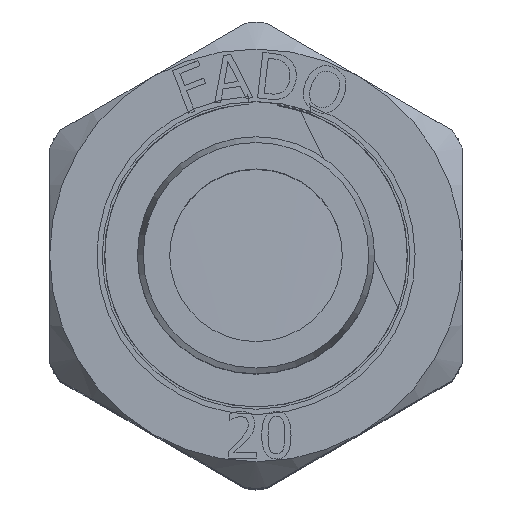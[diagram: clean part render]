
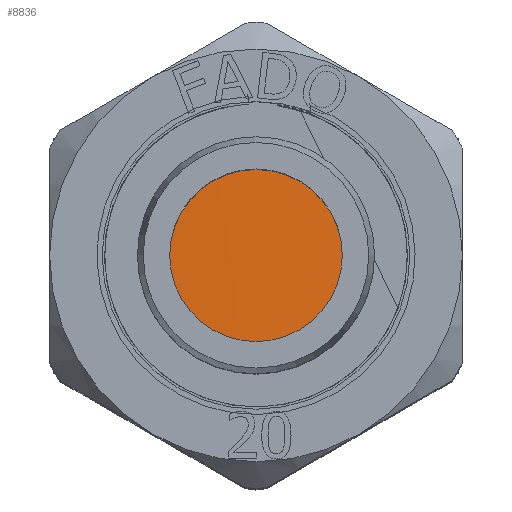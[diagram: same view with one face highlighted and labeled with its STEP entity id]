
A CAD part, top view. The second image highlights one B-rep face of the part: STEP entity #8836.
In plain terms, the highlighted cylindrical face has radius 12.5 mm (diameter 25 mm), a full revolution.
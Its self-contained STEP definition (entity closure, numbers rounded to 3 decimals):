
#330=B_SPLINE_CURVE_WITH_KNOTS('',3,(#11808,#11809,#11810,#11811,#11812,
#11813,#11814,#11815,#11816,#11817,#11818,#11819,#11820,#11821,#11822,#11823,
#11824),.UNSPECIFIED.,.F.,.F.,(4,1,1,1,1,1,1,1,1,1,1,1,1,1,4),(43.982,
44.114,44.61,45.106,45.603,46.099,
46.595,47.091,47.587,48.084,48.58,
49.076,49.572,50.069,50.265),
 .UNSPECIFIED.);
#1011=CYLINDRICAL_SURFACE('',#9478,12.5);
#1256=FACE_OUTER_BOUND('',#1779,.T.);
#1779=EDGE_LOOP('',(#6099,#6100,#6101));
#2587=LINE('',#11698,#3094);
#2589=LINE('',#11807,#3096);
#3094=VECTOR('',#10089,12.5);
#3096=VECTOR('',#10097,12.5);
#3665=VERTEX_POINT('',#11696);
#3666=VERTEX_POINT('',#11697);
#3670=VERTEX_POINT('',#11806);
#4627=EDGE_CURVE('',#3665,#3666,#2587,.T.);
#4633=EDGE_CURVE('',#3670,#3666,#2589,.T.);
#4634=EDGE_CURVE('',#3670,#3665,#330,.T.);
#6099=ORIENTED_EDGE('',*,*,#4627,.T.);
#6100=ORIENTED_EDGE('',*,*,#4633,.F.);
#6101=ORIENTED_EDGE('',*,*,#4634,.T.);
#8836=ADVANCED_FACE('',(#1256),#1011,.T.);
#9478=AXIS2_PLACEMENT_3D('',#11805,#10095,#10096);
#10089=DIRECTION('',(0.,0.,1.));
#10095=DIRECTION('center_axis',(0.,0.,1.));
#10096=DIRECTION('ref_axis',(0.,1.,0.));
#10097=DIRECTION('',(0.,0.,-1.));
#11696=CARTESIAN_POINT('',(0.,-12.5,5.775));
#11697=CARTESIAN_POINT('',(0.,-12.5,6.763));
#11698=CARTESIAN_POINT('',(0.,-12.5,9.277));
#11805=CARTESIAN_POINT('Origin',(0.,0.,9.277));
#11806=CARTESIAN_POINT('',(0.,-12.5,6.776));
#11807=CARTESIAN_POINT('',(0.,-12.5,9.277));
#11808=CARTESIAN_POINT('Ctrl Pts',(0.,-12.5,
6.776));
#11809=CARTESIAN_POINT('Ctrl Pts',(-0.548,-12.5,
6.769));
#11810=CARTESIAN_POINT('Ctrl Pts',(-3.164,-12.331,
6.735));
#11811=CARTESIAN_POINT('Ctrl Pts',(-7.65,-10.542,
6.676));
#11812=CARTESIAN_POINT('Ctrl Pts',(-11.746,-5.628,
6.596));
#11813=CARTESIAN_POINT('Ctrl Pts',(-13.009,0.643,
6.517));
#11814=CARTESIAN_POINT('Ctrl Pts',(-11.133,6.759,6.438));
#11815=CARTESIAN_POINT('Ctrl Pts',(-6.572,11.245,6.359));
#11816=CARTESIAN_POINT('Ctrl Pts',(-0.426,13.018,
6.28));
#11817=CARTESIAN_POINT('Ctrl Pts',(5.824,11.65,6.201));
#11818=CARTESIAN_POINT('Ctrl Pts',(10.668,7.472,6.122));
#11819=CARTESIAN_POINT('Ctrl Pts',(12.939,1.492,6.043));
#11820=CARTESIAN_POINT('Ctrl Pts',(12.089,-4.849,5.964));
#11821=CARTESIAN_POINT('Ctrl Pts',(8.322,-10.02,5.885));
#11822=CARTESIAN_POINT('Ctrl Pts',(3.709,-12.219,5.822));
#11823=CARTESIAN_POINT('Ctrl Pts',(0.821,-12.5,
5.785));
#11824=CARTESIAN_POINT('Ctrl Pts',(0.,-12.499,
5.775));
